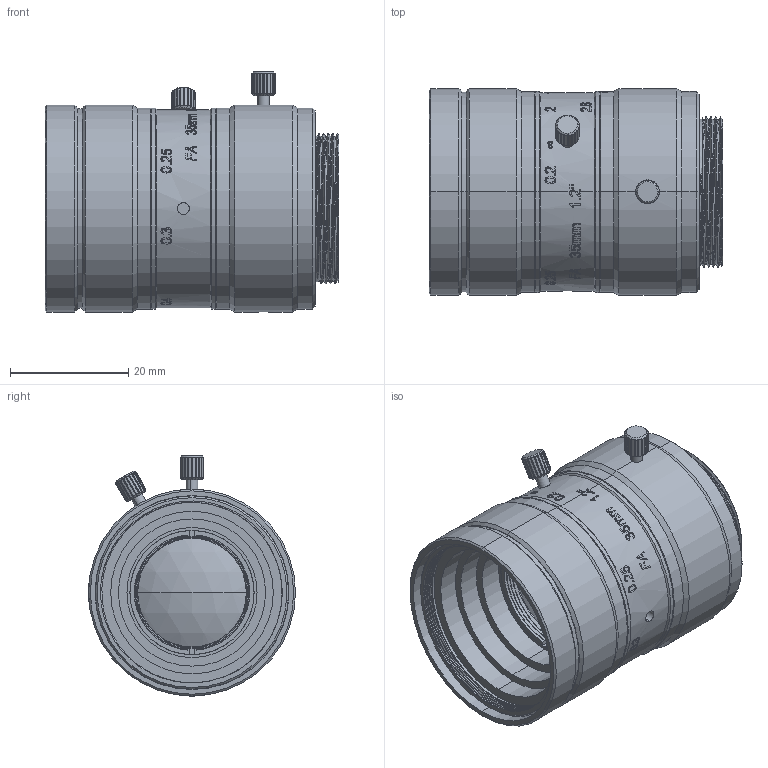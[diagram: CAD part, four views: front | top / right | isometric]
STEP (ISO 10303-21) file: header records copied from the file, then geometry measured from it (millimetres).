
FILE_DESCRIPTION (( 'STEP AP203' ), '1' );
FILE_NAME ('F12M3528C25M.STEP', '2023-02-06T11:59:30', ( '' ), ( '' ), 'SwSTEP 2.0', 'SolidWorks 2021', '' );
FILE_SCHEMA (( 'CONFIG_CONTROL_DESIGN' ));
Length unit declared in the file: millimetre
Products named in the file (4): F12M3528C25M; SNZFS-M1.6-3; F35mm; 坶踡隊1
Assembly tree (6 placements, depth 2):
  F12M3528C25M
    F35mm
    SNZFS-M1.6-3  x3
    坶踡隊1  x2
Bounding box: 49.7 x 35 x 40.6 mm (x, y, z)
Volume: 34338.4 mm3; surface area: 12234.1 mm2
Topology: 7 solids, 7 shells, 1044 faces, 2661 edges, 1722 vertices
Faces by surface type: plane 418, bspline 334, cylinder 221, cone 67, sphere 4
Entity records: 58605 total; most frequent: CARTESIAN_POINT 39917, ORIENTED_EDGE 4502, DIRECTION 2533, EDGE_CURVE 2251, VERTEX_POINT 1470, B_SPLINE_CURVE_WITH_KNOTS 1183, AXIS2_PLACEMENT_3D 967, EDGE_LOOP 965
